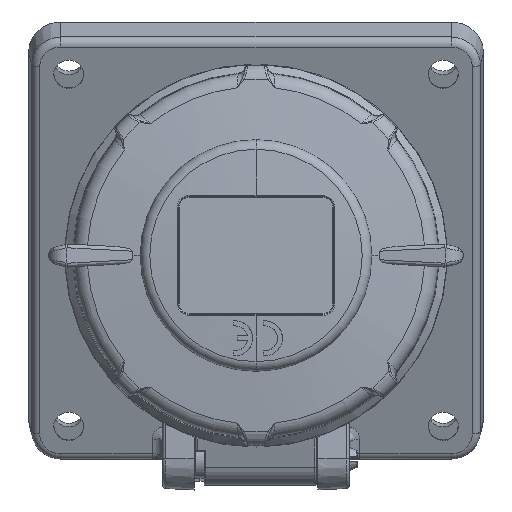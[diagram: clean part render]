
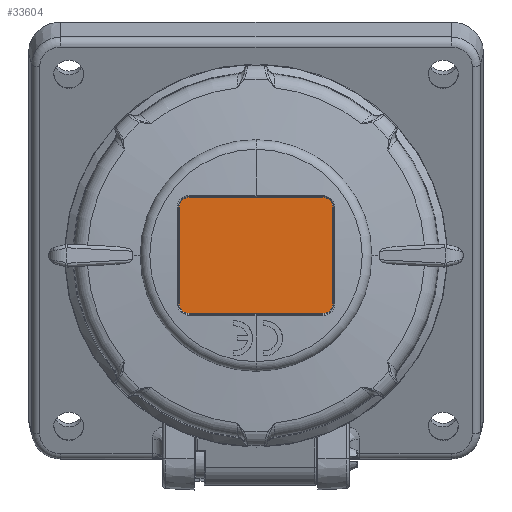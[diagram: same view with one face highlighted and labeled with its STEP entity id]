
A CAD part, top view. The second image highlights one B-rep face of the part: STEP entity #33604.
In plain terms, the highlighted planar face has unit normal (0, 0, 1).
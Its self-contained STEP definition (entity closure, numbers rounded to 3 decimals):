
#804=CARTESIAN_POINT('',(-12.5,-9.,11.61));
#805=DIRECTION('',(0.,0.,-1.));
#806=DIRECTION('',(0.,-1.,0.));
#807=AXIS2_PLACEMENT_3D('',#804,#805,#806);
#809=DIRECTION('',(0.,1.,0.));
#810=VECTOR('',#809,18.);
#811=CARTESIAN_POINT('',(-14.35,-9.,11.61));
#812=LINE('5994',#811,#810);
#813=CARTESIAN_POINT('',(-12.5,9.,11.61));
#814=DIRECTION('',(0.,0.,-1.));
#815=DIRECTION('',(-1.,0.,0.));
#816=AXIS2_PLACEMENT_3D('',#813,#814,#815);
#818=DIRECTION('',(1.,0.,0.));
#819=VECTOR('',#818,25.);
#820=CARTESIAN_POINT('',(-12.5,10.85,11.61));
#821=LINE('5996',#820,#819);
#822=CARTESIAN_POINT('',(12.5,9.,11.61));
#823=DIRECTION('',(0.,0.,-1.));
#824=DIRECTION('',(0.,1.,0.));
#825=AXIS2_PLACEMENT_3D('',#822,#823,#824);
#827=DIRECTION('',(0.,-1.,0.));
#828=VECTOR('',#827,18.);
#829=CARTESIAN_POINT('',(14.35,9.,11.61));
#830=LINE('5999',#829,#828);
#831=CARTESIAN_POINT('',(12.5,-9.,11.61));
#832=DIRECTION('',(0.,0.,-1.));
#833=DIRECTION('',(1.,0.,0.));
#834=AXIS2_PLACEMENT_3D('',#831,#832,#833);
#836=DIRECTION('',(-1.,0.,0.));
#837=VECTOR('',#836,25.);
#838=CARTESIAN_POINT('',(12.5,-10.85,11.61));
#839=LINE('6001',#838,#837);
#32314=CARTESIAN_POINT('',(-12.5,-10.85,11.61));
#32315=CARTESIAN_POINT('',(-14.35,-9.,11.61));
#32316=VERTEX_POINT('',#32314);
#32317=VERTEX_POINT('',#32315);
#32318=CARTESIAN_POINT('',(-14.35,9.,11.61));
#32319=VERTEX_POINT('',#32318);
#32320=CARTESIAN_POINT('',(-12.5,10.85,11.61));
#32321=VERTEX_POINT('',#32320);
#32322=CARTESIAN_POINT('',(12.5,10.85,11.61));
#32323=VERTEX_POINT('',#32322);
#32328=CARTESIAN_POINT('',(14.35,9.,11.61));
#32329=VERTEX_POINT('',#32328);
#32330=CARTESIAN_POINT('',(14.35,-9.,11.61));
#32331=VERTEX_POINT('',#32330);
#32332=CARTESIAN_POINT('',(12.5,-10.85,11.61));
#32333=VERTEX_POINT('',#32332);
#33582=CARTESIAN_POINT('',(0.,0.,11.61));
#33583=DIRECTION('',(0.,0.,1.));
#33584=DIRECTION('',(-1.,0.,0.));
#33585=AXIS2_PLACEMENT_3D('',#33582,#33583,#33584);
#33586=PLANE('1520',#33585);
#33588=ORIENTED_EDGE('5993',*,*,#33587,.T.);
#33590=ORIENTED_EDGE('5994',*,*,#33589,.T.);
#33592=ORIENTED_EDGE('5995',*,*,#33591,.T.);
#33593=ORIENTED_EDGE('5996',*,*,#33565,.T.);
#33595=ORIENTED_EDGE('5998',*,*,#33594,.T.);
#33597=ORIENTED_EDGE('5999',*,*,#33596,.T.);
#33599=ORIENTED_EDGE('6000',*,*,#33598,.T.);
#33601=ORIENTED_EDGE('6001',*,*,#33600,.T.);
#33602=EDGE_LOOP('1520',(#33588,#33590,#33592,#33593,#33595,#33597,#33599,
#33601));
#33603=FACE_OUTER_BOUND('1520',#33602,.F.);
#808=CIRCLE('5993',#807,1.85);
#817=CIRCLE('5995',#816,1.85);
#826=CIRCLE('5998',#825,1.85);
#835=CIRCLE('6000',#834,1.85);
#33565=EDGE_CURVE('5996',#32321,#32323,#821,.T.);
#33587=EDGE_CURVE('5993',#32316,#32317,#808,.T.);
#33589=EDGE_CURVE('5994',#32317,#32319,#812,.T.);
#33591=EDGE_CURVE('5995',#32319,#32321,#817,.T.);
#33594=EDGE_CURVE('5998',#32323,#32329,#826,.T.);
#33596=EDGE_CURVE('5999',#32329,#32331,#830,.T.);
#33598=EDGE_CURVE('6000',#32331,#32333,#835,.T.);
#33600=EDGE_CURVE('6001',#32333,#32316,#839,.T.);
#33604=ADVANCED_FACE('1520',(#33603),#33586,.T.);
